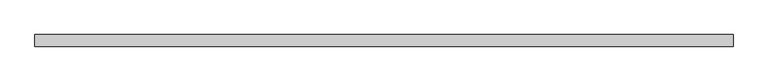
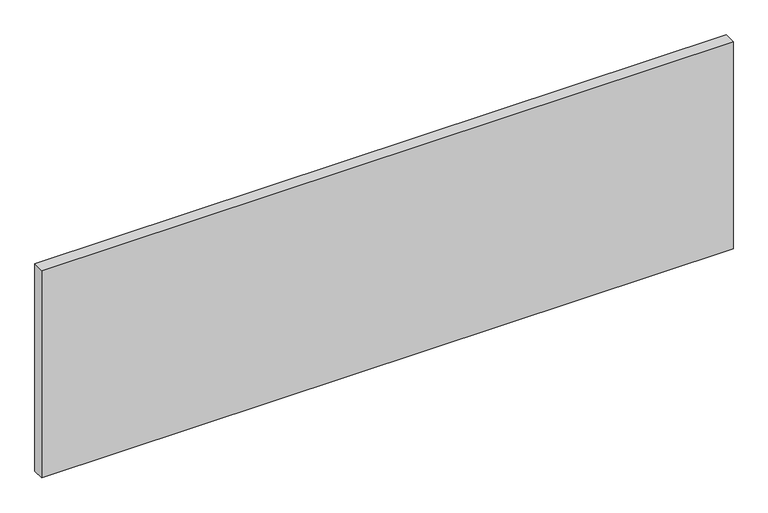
"""IFC4 building model written with IfcOpenShell, lengths in millimetres: proxy geometry, FOUNDATION^WORKSURFACES_LIFT TOP-90x28.5."""

from ifc_helpers import new_model, si_unit, frame, origin, place, context, project, spatial, polyline, outline, extrude, source, transform, mapped, element, save


def generic_models_5573d24b(model_context):
    return source(origin(), model_context, "Body", "SweptSolid", [
        extrude(outline(polyline([(2286.0, 0.0), (0.0, 0.0), (0.0, 38.1), (2286.0, 38.1), (2286.0, 0.0)])), frame((0.0, 0.0, -723.9), z_axis=(0.0, 0.0, 1.0), x_axis=(1.0, 0.0, 0.0)), (0.0, 0.0, 1.0), 723.9),
    ])


if __name__ == "__main__":
    model = new_model("IFC4")
    model_context = context("Model", 3, world=origin())
    ifc_project = project(units=[si_unit("LENGTHUNIT", "METRE", prefix="MILLI")], contexts=[model_context])
    site = spatial("IfcSite", under=ifc_project)
    building = spatial("IfcBuilding", under=site)
    placement = place(None, origin())
    generic_models_shape = generic_models_5573d24b(model_context)
    element("IfcBuildingElementProxy", 1, Name="FOUNDATION^WORKSURFACES_LIFT TOP-90x28.5", ObjectType="FOUNDATION^WORKSURFACES_LIFT TOP-90x28.5", at=placement, inside=building, context=model_context, shape_type="MappedRepresentation", body=[
        mapped(generic_models_shape, transform((0.0, 0.0, 0.0), x_axis=(1.0, 0.0, 0.0), y_axis=(0.0, 1.0, 0.0), z_axis=(0.0, 0.0, 1.0))),
    ])
    save(model, "model.ifc")
